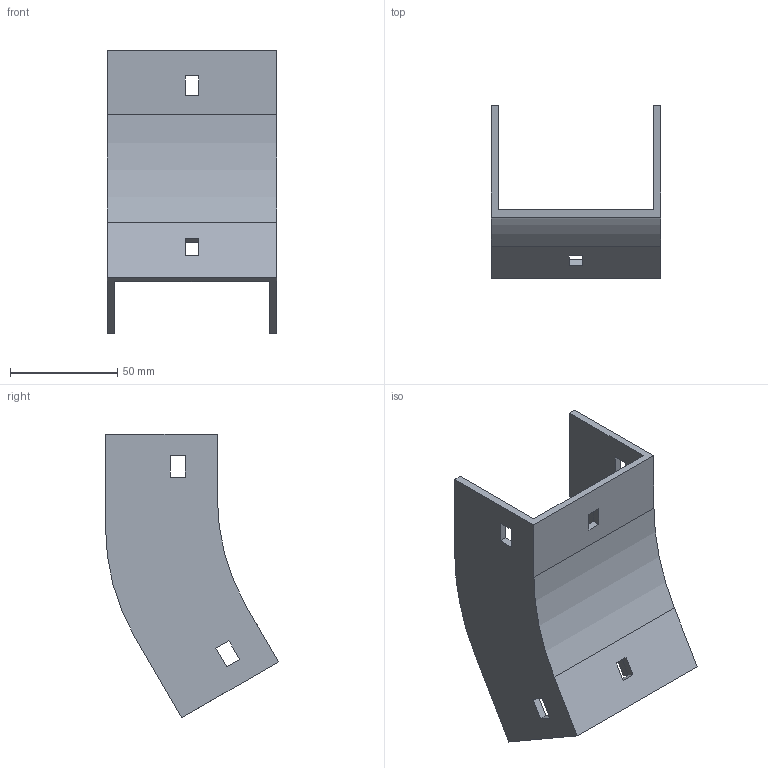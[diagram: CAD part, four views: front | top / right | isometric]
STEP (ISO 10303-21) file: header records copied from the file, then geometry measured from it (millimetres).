
FILE_DESCRIPTION (( 'STEP AP214' ), '1' );
FILE_NAME ('35F1B075.step', '2025-02-21T12:49:15', ( '' ), ( '' ), 'SwSTEP 2.0', 'SolidWorks 2023', '' );
FILE_SCHEMA (( 'AUTOMOTIVE_DESIGN' ));
Length unit declared in the file: millimetre
Products named in the file (1): 35F1B075
Bounding box: 79 x 80.4 x 131.98 mm (x, y, z)
Volume: 73574.5 mm3; surface area: 44942.8 mm2
Topology: 1 solids, 1 shells, 42 faces, 120 edges, 80 vertices
Faces by surface type: plane 38, cylinder 4
Entity records: 1399 total; most frequent: CARTESIAN_POINT 243, ORIENTED_EDGE 240, DIRECTION 214, EDGE_CURVE 120, VECTOR 112, LINE 112, VERTEX_POINT 80, EDGE_LOOP 54
